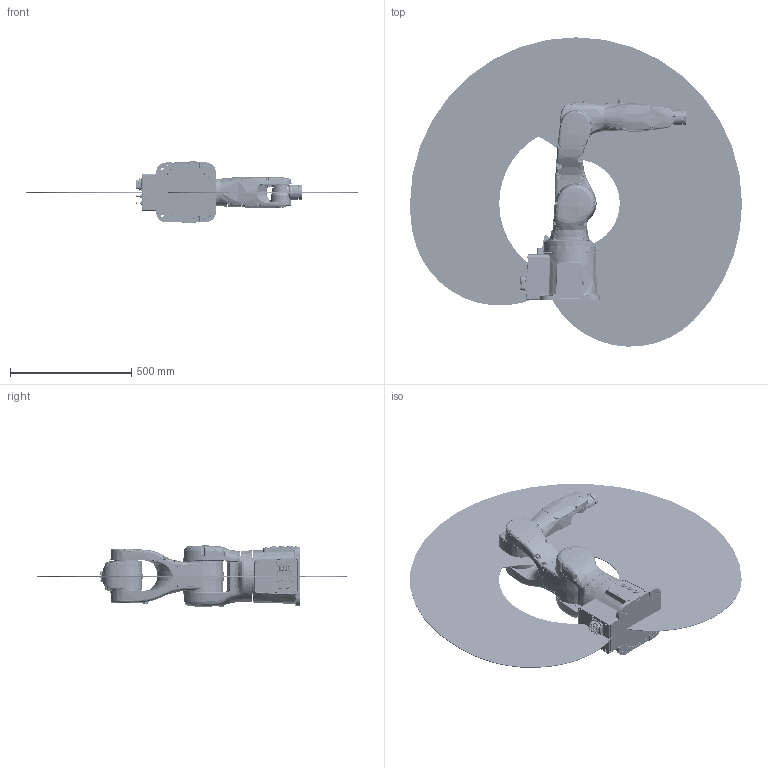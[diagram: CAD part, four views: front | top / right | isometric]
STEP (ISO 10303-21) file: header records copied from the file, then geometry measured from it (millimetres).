
FILE_DESCRIPTION (( 'STEP AP214' ), '1' );
FILE_NAME ('Assembly.STEP', '2024-02-04T01:28:03', ( '' ), ( '' ), 'SwSTEP 2.0', 'SolidWorks 2011', '' );
FILE_SCHEMA (( 'AUTOMOTIVE_DESIGN' ));
Length unit declared in the file: millimetre
Products named in the file (9): Elbow; Assembly; Flange; Working range; Wrist; Lower-arm; Upper-arm; Shoulder; Baes
Assembly tree (8 placements, depth 2):
  Assembly
    Elbow
    Baes
    Upper-arm
    Lower-arm
    Working range
    Flange
    Wrist
    Shoulder
Bounding box: 1369.35 x 1275.99 x 252.58 mm (x, y, z)
Volume: 14783821.5 mm3; surface area: 4922029.5 mm2
Topology: 222 solids, 238 shells, 17989 faces, 43651 edges, 26093 vertices
Faces by surface type: plane 7324, cylinder 3830, bspline 3254, torus 1708, cone 1506, sphere 367
Entity records: 704376 total; most frequent: CARTESIAN_POINT 299759, ORIENTED_EDGE 85748, DIRECTION 76304, EDGE_CURVE 42874, AXIS2_PLACEMENT_3D 29130, VERTEX_POINT 26076, EDGE_LOOP 19554, VECTOR 18044
